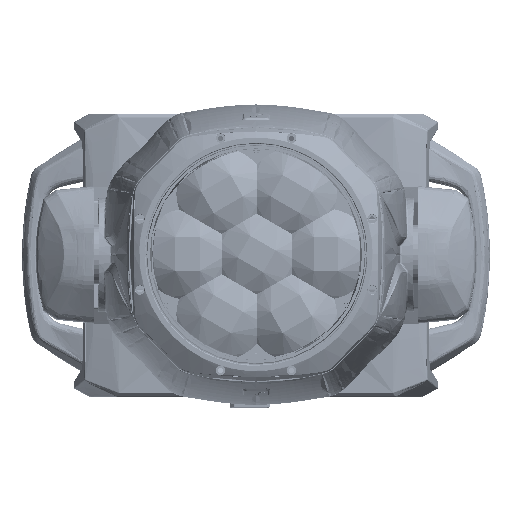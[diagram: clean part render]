
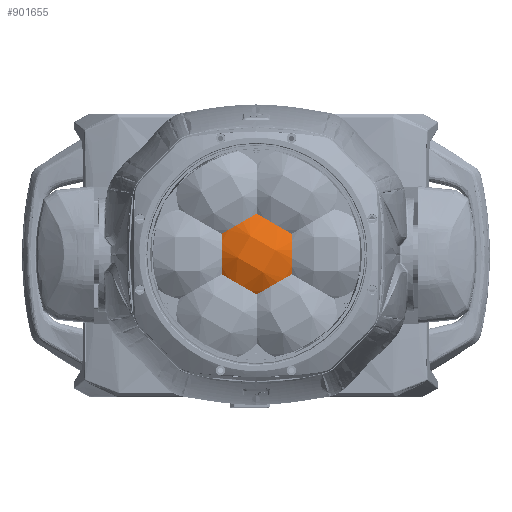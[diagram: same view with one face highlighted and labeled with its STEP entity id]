
A CAD part, top view. The second image highlights one B-rep face of the part: STEP entity #901655.
In plain terms, the highlighted free-form (B-spline) face has degree [3, 3] with [4, 4] control points.
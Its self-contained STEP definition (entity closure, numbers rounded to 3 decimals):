
#2777 = CARTESIAN_POINT ( 'NONE',  ( 23.433, 0.25, 323.472 ) ) ;
#8312 = DIRECTION ( 'NONE',  ( 1., 0., 0. ) ) ;
#21157 = EDGE_CURVE ( 'NONE', #1008577, #621802, #953769, .T. ) ;
#41676 = VERTEX_POINT ( 'NONE', #390842 ) ;
#60369 = CARTESIAN_POINT ( 'NONE',  ( -22.567, 0.25, 323.472 ) ) ;
#85942 = CARTESIAN_POINT ( 'NONE',  ( -28.45, 7.032, 358.578 ) ) ;
#95594 = CIRCLE ( 'NONE', #437096, 35.916 ) ;
#113433 = VERTEX_POINT ( 'NONE', #189756 ) ;
#131492 = DIRECTION ( 'NONE',  ( 0.866, 0.5, 0. ) ) ;
#159312 = CARTESIAN_POINT ( 'NONE',  ( -18.725, -15.247, 362.517 ) ) ;
#189756 = CARTESIAN_POINT ( 'NONE',  ( 0.433, -26.308, 356.843 ) ) ;
#191663 = CARTESIAN_POINT ( 'NONE',  ( -22.567, 13.529, 356.843 ) ) ;
#199178 = AXIS2_PLACEMENT_3D ( 'NONE', #1051172, #278710, #966591 ) ;
#202172 = DIRECTION ( 'NONE',  ( -0.866, 0.5, 0. ) ) ;
#211860 = ORIENTED_EDGE ( 'NONE', *, *, #365227, .F. ) ;
#260446 = CARTESIAN_POINT ( 'NONE',  ( 4.275, 24.59, 362.517 ) ) ;
#265988 = CARTESIAN_POINT ( 'NONE',  ( 20.748, -21.373, 358.578 ) ) ;
#278710 = DIRECTION ( 'NONE',  ( -0.5, -0.866, 0. ) ) ;
#284251 =( BOUNDED_SURFACE ( )  B_SPLINE_SURFACE ( 3, 3, ( 
 ( #429368, #260446, #942704, #339253 ),
 ( #519375, #677684, #767832, #1111792 ),
 ( #85942, #418248, #847020, #265988 ),
 ( #598513, #159312, #869314, #609622 ) ),
 .UNSPECIFIED., .F., .F., .T. ) 
 B_SPLINE_SURFACE_WITH_KNOTS ( ( 4, 4 ),
 ( 4, 4 ),
 ( 0., 1. ),
 ( 0., 1. ),
 .UNSPECIFIED. ) 
 GEOMETRIC_REPRESENTATION_ITEM ( )  RATIONAL_B_SPLINE_SURFACE ( (
 ( 1., 0.852, 0.852, 1.),
 ( 0.895, 0.762, 0.762, 0.895),
 ( 0.895, 0.762, 0.762, 0.895),
 ( 1., 0.852, 0.852, 1.) ) ) 
 REPRESENTATION_ITEM ( '' )  SURFACE ( )  );
#305012 = AXIS2_PLACEMENT_3D ( 'NONE', #60369, #330281, #409255 ) ;
#321499 = EDGE_CURVE ( 'NONE', #976038, #336922, #658594, .T. ) ;
#330281 = DIRECTION ( 'NONE',  ( -1., 0., 0. ) ) ;
#336922 = VERTEX_POINT ( 'NONE', #1103201 ) ;
#339253 = CARTESIAN_POINT ( 'NONE',  ( 31.498, 8.873, 351.393 ) ) ;
#365227 = EDGE_CURVE ( 'NONE', #41676, #976038, #95594, .T. ) ;
#373565 = CARTESIAN_POINT ( 'NONE',  ( 11.933, -19.669, 323.472 ) ) ;
#390842 = CARTESIAN_POINT ( 'NONE',  ( 0.433, 26.808, 356.843 ) ) ;
#409255 = DIRECTION ( 'NONE',  ( 0., -1., 0. ) ) ;
#409316 = CARTESIAN_POINT ( 'NONE',  ( -11.067, 20.169, 323.472 ) ) ;
#418248 = CARTESIAN_POINT ( 'NONE',  ( -13.48, -1.612, 372.564 ) ) ;
#429368 = CARTESIAN_POINT ( 'NONE',  ( -7.632, 31.464, 351.393 ) ) ;
#437096 = AXIS2_PLACEMENT_3D ( 'NONE', #969064, #466668, #202172 ) ;
#466668 = DIRECTION ( 'NONE',  ( 0.5, 0.866, 0. ) ) ;
#482752 = DIRECTION ( 'NONE',  ( -0.5, 0.866, 0. ) ) ;
#515533 = ORIENTED_EDGE ( 'NONE', *, *, #1111617, .F. ) ;
#519375 = CARTESIAN_POINT ( 'NONE',  ( -19.882, 21.873, 358.578 ) ) ;
#549773 = ORIENTED_EDGE ( 'NONE', *, *, #707684, .F. ) ;
#563567 = AXIS2_PLACEMENT_3D ( 'NONE', #373565, #977194, #131492 ) ;
#580357 = EDGE_LOOP ( 'NONE', ( #913108, #211860, #764951, #777293, #515533, #549773 ) ) ;
#598513 = CARTESIAN_POINT ( 'NONE',  ( -30.632, -8.373, 351.393 ) ) ;
#609622 = CARTESIAN_POINT ( 'NONE',  ( 8.498, -30.964, 351.393 ) ) ;
#621802 = VERTEX_POINT ( 'NONE', #191663 ) ;
#653904 = CIRCLE ( 'NONE', #563567, 35.916 ) ;
#658594 = CIRCLE ( 'NONE', #1000854, 35.916 ) ;
#677684 = CARTESIAN_POINT ( 'NONE',  ( -4.911, 13.229, 372.564 ) ) ;
#707684 = EDGE_CURVE ( 'NONE', #336922, #113433, #653904, .T. ) ;
#741456 = CIRCLE ( 'NONE', #777643, 35.916 ) ;
#762238 = FACE_OUTER_BOUND ( 'NONE', #580357, .T. ) ;
#764951 = ORIENTED_EDGE ( 'NONE', *, *, #932316, .F. ) ;
#767832 = CARTESIAN_POINT ( 'NONE',  ( 14.346, 2.112, 372.564 ) ) ;
#777293 = ORIENTED_EDGE ( 'NONE', *, *, #21157, .F. ) ;
#777643 = AXIS2_PLACEMENT_3D ( 'NONE', #409316, #482752, #1001785 ) ;
#831551 = CARTESIAN_POINT ( 'NONE',  ( 23.433, 13.529, 356.843 ) ) ;
#847020 = CARTESIAN_POINT ( 'NONE',  ( 5.777, -12.729, 372.564 ) ) ;
#865673 = CIRCLE ( 'NONE', #199178, 35.916 ) ;
#866682 = CARTESIAN_POINT ( 'NONE',  ( -22.567, -13.029, 356.843 ) ) ;
#869314 = CARTESIAN_POINT ( 'NONE',  ( -3.409, -24.09, 362.517 ) ) ;
#901655 = ADVANCED_FACE ( 'NONE', ( #762238 ), #284251, .T. ) ;
#913108 = ORIENTED_EDGE ( 'NONE', *, *, #321499, .F. ) ;
#932316 = EDGE_CURVE ( 'NONE', #621802, #41676, #741456, .T. ) ;
#942704 = CARTESIAN_POINT ( 'NONE',  ( 19.591, 15.747, 362.517 ) ) ;
#944032 = DIRECTION ( 'NONE',  ( 0., 1., 0. ) ) ;
#953769 = CIRCLE ( 'NONE', #305012, 35.916 ) ;
#966591 = DIRECTION ( 'NONE',  ( 0.866, -0.5, 0. ) ) ;
#969064 = CARTESIAN_POINT ( 'NONE',  ( 11.933, 20.169, 323.472 ) ) ;
#976038 = VERTEX_POINT ( 'NONE', #831551 ) ;
#977194 = DIRECTION ( 'NONE',  ( 0.5, -0.866, 0. ) ) ;
#1000854 = AXIS2_PLACEMENT_3D ( 'NONE', #2777, #8312, #944032 ) ;
#1001785 = DIRECTION ( 'NONE',  ( -0.866, -0.5, 0. ) ) ;
#1008577 = VERTEX_POINT ( 'NONE', #866682 ) ;
#1051172 = CARTESIAN_POINT ( 'NONE',  ( -11.067, -19.669, 323.472 ) ) ;
#1103201 = CARTESIAN_POINT ( 'NONE',  ( 23.433, -13.029, 356.843 ) ) ;
#1111617 = EDGE_CURVE ( 'NONE', #113433, #1008577, #865673, .T. ) ;
#1111792 = CARTESIAN_POINT ( 'NONE',  ( 29.316, -6.532, 358.578 ) ) ;
